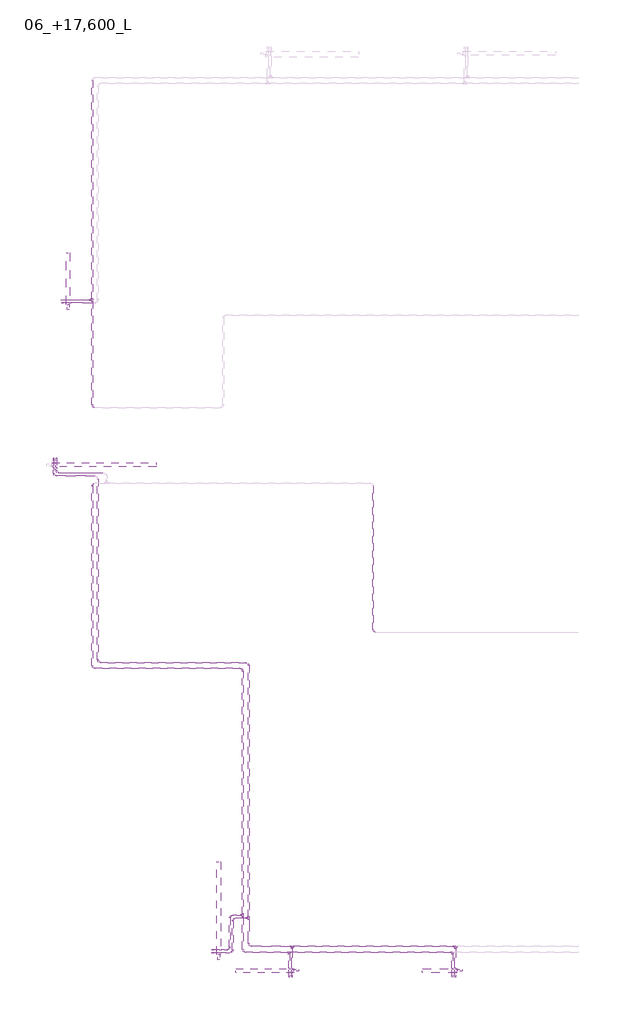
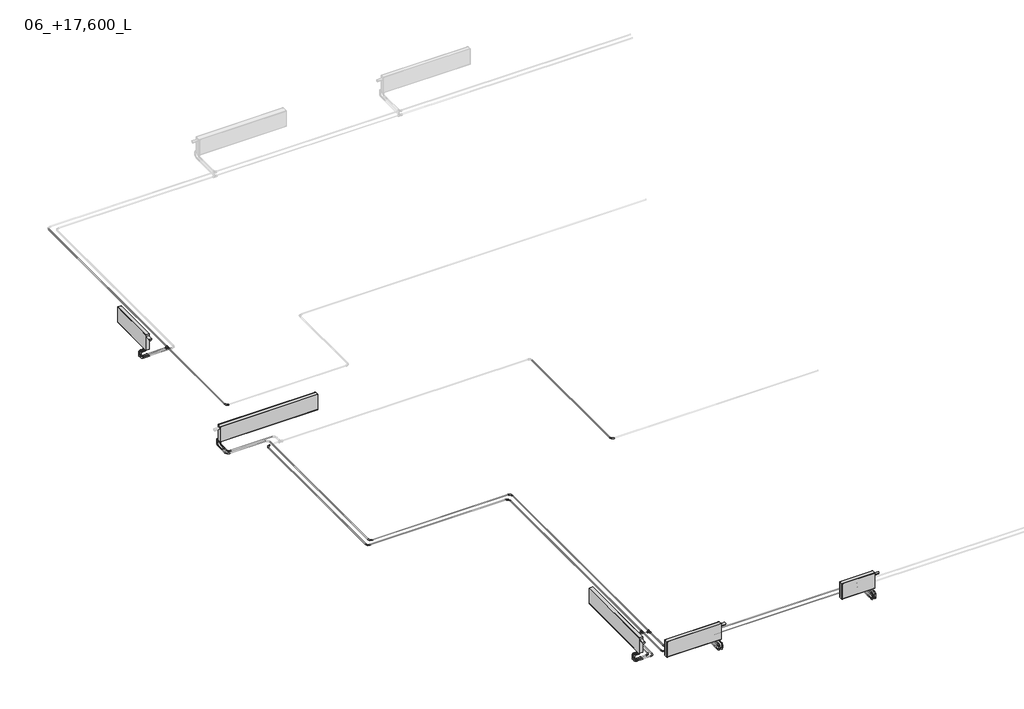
# One storey, part 1 of 7: 32 pipe fittings, 31 pipe segments, 5 proxies, 4 valves.
"""IFC4 building model written with IfcOpenShell, lengths in millimetres."""

from ifc_helpers import new_model, si_unit, point, frame, frame_2d, origin, place, context, project, spatial, circle_curve, trimmed, segment, composite_curve, outline, extrude, transform, mapped, element, save
from components import mechanical_equipment_c0c35615, mechanical_equipment_054ffeb9, mechanical_equipment_91f7fb6e, mechanical_equipment_feb41a6e, mechanical_equipment_6df30eec, pipe_fitting_44bd76dc, pipe_fitting_8f811e63, pipe_fitting_d927fdfb, valve_73842d38, valve_8453c3c0, valve_3b1922a4, valve_18af1cec

model = new_model("IFC4")

# Units and contexts
model_context = context("Model", 3, world=origin())
ifc_project = project(units=[si_unit("LENGTHUNIT", "METRE", prefix="MILLI")], contexts=[model_context])

# Site, building, storey
site = spatial("IfcSite", under=ifc_project)
building = spatial("IfcBuilding", under=site)
storey = spatial("IfcBuildingStorey", under=building, Name="06_+17,600_L", Elevation=17600.0)

# Proxies
placement = place(None, origin())
mechanical_equipment_shape = mechanical_equipment_c0c35615(model_context)
element("IfcBuildingElementProxy", 1, Name="EVRA CV Д : 21-300-1600", ObjectType="EVRA CV Д : 21-300-1600", at=placement, inside=storey, context=model_context, shape_type="MappedRepresentation", body=[
    mapped(mechanical_equipment_shape, transform((50061.4631102, 113460.2677163, 31400.0), x_axis=(0.0, 1.0, 0.0), y_axis=(-1.0, 0.0, 0.0), z_axis=(0.0, 0.0, 1.0))),
])
mechanical_equipment_2_shape = mechanical_equipment_054ffeb9(model_context)
element("IfcBuildingElementProxy", 2, Name="EVRA CV Д : 21-300-1000", ObjectType="EVRA CV Д : 21-300-1000", at=placement, inside=storey, context=model_context, shape_type="MappedRepresentation", body=[
    mapped(mechanical_equipment_2_shape, transform((51080.0, 112561.4631102, 31400.0), x_axis=(-1.0, 0.0, 0.0), y_axis=(0.0, -1.0, 0.0), z_axis=(0.0, 0.0, 1.0))),
])
mechanical_equipment_3_shape = mechanical_equipment_91f7fb6e(model_context)
element("IfcBuildingElementProxy", 3, Name="EVRA CV Д : 21-300-900", ObjectType="EVRA CV Д : 21-300-900", at=placement, inside=storey, context=model_context, shape_type="MappedRepresentation", body=[
    mapped(mechanical_equipment_3_shape, transform((47461.4631102, 124330.0000002, 31400.0), x_axis=(0.0, 1.0, 0.0), y_axis=(-1.0, 0.0, 0.0), z_axis=(0.0, 0.0, 1.0))),
])
mechanical_equipment_4_shape = mechanical_equipment_feb41a6e(model_context)
element("IfcBuildingElementProxy", 4, Name="EVRA CV Д : 21-300-600", ObjectType="EVRA CV Д : 21-300-600", at=placement, inside=storey, context=model_context, shape_type="MappedRepresentation", body=[
    mapped(mechanical_equipment_4_shape, transform((54100.0, 112561.4631102, 31400.0), x_axis=(-1.0, 0.0, 0.0), y_axis=(0.0, -1.0, 0.0), z_axis=(0.0, 0.0, 1.0))),
])
mechanical_equipment_5_shape = mechanical_equipment_6df30eec(model_context)
element("IfcBuildingElementProxy", 5, Name="EVRA CV Д : 21-300-1800", ObjectType="EVRA CV Д : 21-300-1800", at=placement, inside=storey, context=model_context, shape_type="MappedRepresentation", body=[
    mapped(mechanical_equipment_5_shape, transform((47902.548164, 121338.53689, 31400.0), x_axis=(1.0, 0.0, 0.0), y_axis=(0.0, 1.0, 0.0), z_axis=(0.0, 0.0, 1.0))),
])

# Pipe fittings
pipe_fitting_shape = pipe_fitting_44bd76dc(model_context)
element("IfcPipeFitting", 6, ObjectType="ADSK_Пресс-фитинг ПЭ_Тройник : Пластик черный", at=placement, inside=storey, context=model_context, shape_type="MappedRepresentation", body=[
    mapped(pipe_fitting_shape, transform((50499.9999998, 113540.2677163, 31350.0), x_axis=(0.0, -1.0, 0.0), y_axis=(1.0, 0.0, 0.0), z_axis=(0.0, 0.0, 1.0))),
])
element("IfcPipeFitting", 7, ObjectType="ADSK_Пресс-фитинг ПЭ_Тройник : Пластик черный", at=placement, inside=storey, context=model_context, shape_type="MappedRepresentation", body=[
    mapped(pipe_fitting_shape, transform((50599.9999998, 113490.2677163, 31350.0), x_axis=(0.0, -1.0, 0.0), y_axis=(1.0, 0.0, 0.0), z_axis=(0.0, 0.0, 1.0))),
])
element("IfcPipeFitting", 8, ObjectType="ADSK_Пресс-фитинг ПЭ_Тройник : Пластик черный", at=placement, inside=storey, context=model_context, shape_type="MappedRepresentation", body=[
    mapped(pipe_fitting_shape, transform((47900.0, 124160.0000002, 31350.0), x_axis=(0.0, 1.0, 0.0), y_axis=(1.0, 0.0, 0.0), z_axis=(0.0, 0.0, -1.0))),
])
element("IfcPipeFitting", 9, ObjectType="ADSK_Пресс-фитинг ПЭ_Тройник : Пластик черный", at=placement, inside=storey, context=model_context, shape_type="MappedRepresentation", body=[
    mapped(pipe_fitting_shape, transform((54170.0, 113000.0, 31350.0), x_axis=(1.0, 0.0, 0.0), y_axis=(0.0, 1.0, 0.0), z_axis=(0.0, 0.0, 1.0))),
])
element("IfcPipeFitting", 10, ObjectType="ADSK_Пресс-фитинг ПЭ_Тройник : Пластик черный", at=placement, inside=storey, context=model_context, shape_type="MappedRepresentation", body=[
    mapped(pipe_fitting_shape, transform((54120.0, 112900.0, 31350.0), x_axis=(1.0, 0.0, 0.0), y_axis=(0.0, 1.0, 0.0), z_axis=(0.0, 0.0, 1.0))),
])
element("IfcPipeFitting", 11, ObjectType="ADSK_Пресс-фитинг ПЭ_Тройник : Пластик черный", at=placement, inside=storey, context=model_context, shape_type="MappedRepresentation", body=[
    mapped(pipe_fitting_shape, transform((51350.0, 113000.0, 31350.0), x_axis=(1.0, 0.0, 0.0), y_axis=(0.0, 1.0, 0.0), z_axis=(0.0, 0.0, 1.0))),
])
element("IfcPipeFitting", 12, ObjectType="ADSK_Пресс-фитинг ПЭ_Тройник : Пластик черный", at=placement, inside=storey, context=model_context, shape_type="MappedRepresentation", body=[
    mapped(pipe_fitting_shape, transform((51300.0, 112900.0, 31350.0), x_axis=(1.0, 0.0, 0.0), y_axis=(0.0, 1.0, 0.0), z_axis=(0.0, 0.0, 1.0))),
])
pipe_fitting_2_shape = pipe_fitting_8f811e63(model_context)
element("IfcPipeFitting", 13, ObjectType="ADSK_Пресс-фитинг ПЭ_Поворот с фиксатором : Поворот трубы", at=placement, inside=storey, context=model_context, shape_type="MappedRepresentation", body=[
    mapped(pipe_fitting_2_shape, transform((50599.9999998, 113000.0, 31350.0), x_axis=(0.0, -1.0, 0.0), y_axis=(1.0, 0.0, 0.0), z_axis=(0.0, 0.0, 1.0))),
])
element("IfcPipeFitting", 14, ObjectType="ADSK_Пресс-фитинг ПЭ_Поворот с фиксатором : Поворот трубы", at=placement, inside=storey, context=model_context, shape_type="MappedRepresentation", body=[
    mapped(pipe_fitting_2_shape, transform((50499.9999998, 112900.0, 31350.0), x_axis=(0.0, -1.0, 0.0), y_axis=(1.0, 0.0, 0.0), z_axis=(0.0, 0.0, 1.0))),
])
element("IfcPipeFitting", 15, ObjectType="ADSK_Пресс-фитинг ПЭ_Поворот с фиксатором : Поворот трубы", at=placement, inside=storey, context=model_context, shape_type="MappedRepresentation", body=[
    mapped(pipe_fitting_2_shape, transform((50277.0, 113540.2677163, 31350.0), x_axis=(-1.0, 0.0, 0.0), y_axis=(0.0, -1.0, 0.0), z_axis=(0.0, 0.0, 1.0))),
])
element("IfcPipeFitting", 16, ObjectType="ADSK_Пресс-фитинг ПЭ_Поворот с фиксатором : Поворот трубы", at=placement, inside=storey, context=model_context, shape_type="MappedRepresentation", body=[
    mapped(pipe_fitting_2_shape, transform((50327.0, 113490.2677163, 31350.0), x_axis=(-1.0, 0.0, 0.0), y_axis=(0.0, -1.0, 0.0), z_axis=(0.0, 0.0, 1.0))),
])
element("IfcPipeFitting", 17, ObjectType="ADSK_Пресс-фитинг ПЭ_Поворот с фиксатором : Поворот трубы", at=placement, inside=storey, context=model_context, shape_type="MappedRepresentation", body=[
    mapped(pipe_fitting_2_shape, transform((47900.0, 122300.0, 31350.0), x_axis=(0.0, -1.0, 0.0), y_axis=(1.0, 0.0, 0.0), z_axis=(0.0, 0.0, 1.0))),
])
element("IfcPipeFitting", 18, ObjectType="ADSK_Пресс-фитинг ПЭ_Поворот с фиксатором : Поворот трубы", at=placement, inside=storey, context=model_context, shape_type="MappedRepresentation", body=[
    mapped(pipe_fitting_2_shape, transform((52749.0000003, 118420.0, 31350.0), x_axis=(0.0, -1.0, 0.0), y_axis=(1.0, 0.0, 0.0), z_axis=(0.0, 0.0, 1.0))),
])
element("IfcPipeFitting", 19, ObjectType="ADSK_Пресс-фитинг ПЭ_Поворот с фиксатором : Поворот трубы", at=placement, inside=storey, context=model_context, shape_type="MappedRepresentation", body=[
    mapped(pipe_fitting_2_shape, transform((47900.0, 121000.0000002, 31350.0), x_axis=(-1.0, 0.0, 0.0), y_axis=(0.0, -1.0, 0.0), z_axis=(0.0, 0.0, 1.0))),
])
element("IfcPipeFitting", 20, ObjectType="ADSK_Пресс-фитинг ПЭ_Поворот с фиксатором : Поворот трубы", at=placement, inside=storey, context=model_context, shape_type="MappedRepresentation", body=[
    mapped(pipe_fitting_2_shape, transform((47282.548164, 121173.0000002, 31350.0), x_axis=(0.0, -1.0, 0.0), y_axis=(1.0, 0.0, 0.0), z_axis=(0.0, 0.0, 1.0))),
])
element("IfcPipeFitting", 21, ObjectType="ADSK_Пресс-фитинг ПЭ_Поворот с фиксатором : Поворот трубы", at=placement, inside=storey, context=model_context, shape_type="MappedRepresentation", body=[
    mapped(pipe_fitting_2_shape, transform((47232.548164, 121123.0000002, 31350.0), x_axis=(0.0, -1.0, 0.0), y_axis=(1.0, 0.0, 0.0), z_axis=(0.0, 0.0, 1.0))),
])
element("IfcPipeFitting", 22, ObjectType="ADSK_Пресс-фитинг ПЭ_Поворот с фиксатором : Поворот трубы", at=placement, inside=storey, context=model_context, shape_type="MappedRepresentation", body=[
    mapped(pipe_fitting_2_shape, transform((48000.0, 117900.0000002, 31350.0), x_axis=(0.0, -1.0, 0.0), y_axis=(1.0, 0.0, 0.0), z_axis=(0.0, 0.0, 1.0))),
])
element("IfcPipeFitting", 23, ObjectType="ADSK_Пресс-фитинг ПЭ_Поворот с фиксатором : Поворот трубы", at=placement, inside=storey, context=model_context, shape_type="MappedRepresentation", body=[
    mapped(pipe_fitting_2_shape, transform((50499.9999998, 117800.0000002, 31350.0), x_axis=(0.0, 1.0, 0.0), y_axis=(-1.0, 0.0, 0.0), z_axis=(0.0, 0.0, 1.0))),
])
element("IfcPipeFitting", 24, ObjectType="ADSK_Пресс-фитинг ПЭ_Поворот с фиксатором : Поворот трубы", at=placement, inside=storey, context=model_context, shape_type="MappedRepresentation", body=[
    mapped(pipe_fitting_2_shape, transform((50277.0, 112940.2677163, 31350.0), x_axis=(1.0, 0.0, 0.0), y_axis=(0.0, 1.0, 0.0), z_axis=(0.0, 0.0, 1.0))),
])
element("IfcPipeFitting", 25, ObjectType="ADSK_Пресс-фитинг ПЭ_Поворот с фиксатором : Поворот трубы", at=placement, inside=storey, context=model_context, shape_type="MappedRepresentation", body=[
    mapped(pipe_fitting_2_shape, transform((50327.0, 112890.2677163, 31350.0), x_axis=(1.0, 0.0, 0.0), y_axis=(0.0, 1.0, 0.0), z_axis=(0.0, 0.0, 1.0))),
])
element("IfcPipeFitting", 26, ObjectType="ADSK_Пресс-фитинг ПЭ_Поворот с фиксатором : Поворот трубы", at=placement, inside=storey, context=model_context, shape_type="MappedRepresentation", body=[
    mapped(pipe_fitting_2_shape, transform((50599.9999998, 117900.0000002, 31350.0), x_axis=(0.0, 1.0, 0.0), y_axis=(-1.0, 0.0, 0.0), z_axis=(0.0, 0.0, 1.0))),
])
element("IfcPipeFitting", 27, ObjectType="ADSK_Пресс-фитинг ПЭ_Поворот с фиксатором : Поворот трубы", at=placement, inside=storey, context=model_context, shape_type="MappedRepresentation", body=[
    mapped(pipe_fitting_2_shape, transform((47900.0, 117800.0000002, 31350.0), x_axis=(0.0, -1.0, 0.0), y_axis=(1.0, 0.0, 0.0), z_axis=(0.0, 0.0, 1.0))),
])
pipe_fitting_3_shape = pipe_fitting_d927fdfb(model_context)
element("IfcPipeFitting", 28, ObjectType="Трубка Г-образная VTm.481.PC из стены : VTm.481.PC", at=placement, inside=storey, context=model_context, shape_type="MappedRepresentation", body=[
    mapped(pipe_fitting_3_shape, transform((51350.0, 112512.0, 31350.0), x_axis=(-1.0, 0.0, 0.0), y_axis=(0.0, -1.0, 0.0), z_axis=(0.0, 0.0, 1.0))),
])
element("IfcPipeFitting", 29, ObjectType="Трубка Г-образная VTm.481.PC из стены : VTm.481.PC", at=placement, inside=storey, context=model_context, shape_type="MappedRepresentation", body=[
    mapped(pipe_fitting_3_shape, transform((50012.0, 112890.2677163, 31350.0), x_axis=(0.0, 1.0, 0.0), y_axis=(-1.0, 0.0, 0.0), z_axis=(0.0, 0.0, 1.0))),
])
element("IfcPipeFitting", 30, ObjectType="Трубка Г-образная VTm.481.PC из стены : VTm.481.PC", at=placement, inside=storey, context=model_context, shape_type="MappedRepresentation", body=[
    mapped(pipe_fitting_3_shape, transform((54170.0, 112512.0, 31350.0), x_axis=(-1.0, 0.0, 0.0), y_axis=(0.0, -1.0, 0.0), z_axis=(0.0, 0.0, 1.0))),
])
element("IfcPipeFitting", 31, ObjectType="Трубка Г-образная VTm.481.PC из стены : VTm.481.PC", at=placement, inside=storey, context=model_context, shape_type="MappedRepresentation", body=[
    mapped(pipe_fitting_3_shape, transform((47232.548164, 121388.0000002, 31350.0), x_axis=(1.0, 0.0, 0.0), y_axis=(0.0, 1.0, 0.0), z_axis=(0.0, 0.0, 1.0))),
])
element("IfcPipeFitting", 32, ObjectType="Трубка Г-образная VTm.481.PC из стены : VTm.481.PC", at=placement, inside=storey, context=model_context, shape_type="MappedRepresentation", body=[
    mapped(pipe_fitting_3_shape, transform((47412.0, 124110.0000002, 31350.0), x_axis=(0.0, 1.0, 0.0), y_axis=(-1.0, 0.0, 0.0), z_axis=(0.0, 0.0, 1.0))),
])
element("IfcPipeFitting", 33, ObjectType="Трубка Г-образная VTm.481.PC из стены : VTm.481.PC", at=placement, inside=storey, context=model_context, shape_type="MappedRepresentation", body=[
    mapped(pipe_fitting_3_shape, transform((51300.0, 112512.0, 31350.0), x_axis=(-1.0, 0.0, 0.0), y_axis=(0.0, -1.0, 0.0), z_axis=(0.0, 0.0, 1.0))),
])
element("IfcPipeFitting", 34, ObjectType="Трубка Г-образная VTm.481.PC из стены : VTm.481.PC", at=placement, inside=storey, context=model_context, shape_type="MappedRepresentation", body=[
    mapped(pipe_fitting_3_shape, transform((50012.0, 112940.2677163, 31350.0), x_axis=(0.0, 1.0, 0.0), y_axis=(-1.0, 0.0, 0.0), z_axis=(0.0, 0.0, 1.0))),
])
element("IfcPipeFitting", 35, ObjectType="Трубка Г-образная VTm.481.PC из стены : VTm.481.PC", at=placement, inside=storey, context=model_context, shape_type="MappedRepresentation", body=[
    mapped(pipe_fitting_3_shape, transform((54120.0, 112512.0, 31350.0), x_axis=(-1.0, 0.0, 0.0), y_axis=(0.0, -1.0, 0.0), z_axis=(0.0, 0.0, 1.0))),
])
element("IfcPipeFitting", 36, ObjectType="Трубка Г-образная VTm.481.PC из стены : VTm.481.PC", at=placement, inside=storey, context=model_context, shape_type="MappedRepresentation", body=[
    mapped(pipe_fitting_3_shape, transform((47282.548164, 121388.0000002, 31350.0), x_axis=(1.0, 0.0, 0.0), y_axis=(0.0, 1.0, 0.0), z_axis=(0.0, 0.0, 1.0))),
])
element("IfcPipeFitting", 37, ObjectType="Трубка Г-образная VTm.481.PC из стены : VTm.481.PC", at=placement, inside=storey, context=model_context, shape_type="MappedRepresentation", body=[
    mapped(pipe_fitting_3_shape, transform((47412.0, 124160.0000002, 31350.0), x_axis=(0.0, 1.0, 0.0), y_axis=(-1.0, 0.0, 0.0), z_axis=(0.0, 0.0, 1.0))),
])

# Pipe segments
element("IfcPipeSegment", 38, ObjectType="ADSK_Полиэтилен сшитый", at=placement, inside=storey, context=model_context, shape_type="SweptSolid", body=[
    extrude(outline(composite_curve([segment(trimmed(circle_curve(frame_2d((31350.0, 50499.9999998)), 8.0), [point((31350.0, 50491.9999998))], [point((31342.0, 50499.9999998))], False, "CARTESIAN"), True, "CONTINUOUS"), segment(trimmed(circle_curve(frame_2d((31350.0, 50499.9999998)), 8.0), [point((31342.0, 50499.9999998))], [point((31350.0, 50507.9999998))], False, "CARTESIAN"), True, "CONTINUOUS"), segment(trimmed(circle_curve(frame_2d((31350.0, 50499.9999998)), 8.0), [point((31350.0, 50507.9999998))], [point((31358.0, 50499.9999998))], False, "CARTESIAN"), True, "CONTINUOUS"), segment(trimmed(circle_curve(frame_2d((31350.0, 50499.9999998)), 8.0), [point((31358.0, 50499.9999998))], [point((31350.0, 50491.9999998))], False, "CARTESIAN"), True, "CONTINUOUS")], self_intersect=False)), frame((0.0, 112948.0, 0.0), z_axis=(0.0, 1.0, 0.0), x_axis=(0.0, 0.0, 1.0)), (0.0, 0.0, 1.0), 573.2677163),
])
element("IfcPipeSegment", 39, ObjectType="ADSK_Полиэтилен сшитый", at=placement, inside=storey, context=model_context, shape_type="SweptSolid", body=[
    extrude(outline(composite_curve([segment(trimmed(circle_curve(frame_2d((31350.0, 47900.0)), 8.0), [point((31350.0, 47892.0))], [point((31342.0, 47900.0))], False, "CARTESIAN"), True, "CONTINUOUS"), segment(trimmed(circle_curve(frame_2d((31350.0, 47900.0)), 8.0), [point((31342.0, 47900.0))], [point((31350.0, 47908.0))], False, "CARTESIAN"), True, "CONTINUOUS"), segment(trimmed(circle_curve(frame_2d((31350.0, 47900.0)), 8.0), [point((31350.0, 47908.0))], [point((31358.0, 47900.0))], False, "CARTESIAN"), True, "CONTINUOUS"), segment(trimmed(circle_curve(frame_2d((31350.0, 47900.0)), 8.0), [point((31358.0, 47900.0))], [point((31350.0, 47892.0))], False, "CARTESIAN"), True, "CONTINUOUS")], self_intersect=False)), frame((0.0, 122348.0, 0.0), z_axis=(0.0, 1.0, 0.0), x_axis=(0.0, 0.0, 1.0)), (0.0, 0.0, 1.0), 1792.0000002),
])
element("IfcPipeSegment", 40, ObjectType="ADSK_Полиэтилен сшитый", at=placement, inside=storey, context=model_context, shape_type="SweptSolid", body=[
    extrude(outline(composite_curve([segment(trimmed(circle_curve(frame_2d((31350.0, 51350.0)), 8.0), [point((31350.0, 51342.0))], [point((31342.0, 51350.0))], False, "CARTESIAN"), True, "CONTINUOUS"), segment(trimmed(circle_curve(frame_2d((31350.0, 51350.0)), 8.0), [point((31342.0, 51350.0))], [point((31350.0, 51358.0))], False, "CARTESIAN"), True, "CONTINUOUS"), segment(trimmed(circle_curve(frame_2d((31350.0, 51350.0)), 8.0), [point((31350.0, 51358.0))], [point((31358.0, 51350.0))], False, "CARTESIAN"), True, "CONTINUOUS"), segment(trimmed(circle_curve(frame_2d((31350.0, 51350.0)), 8.0), [point((31358.0, 51350.0))], [point((31350.0, 51342.0))], False, "CARTESIAN"), True, "CONTINUOUS")], self_intersect=False)), frame((0.0, 112627.0, 0.0), z_axis=(0.0, 1.0, 0.0), x_axis=(0.0, 0.0, 1.0)), (0.0, 0.0, 1.0), 349.0),
])
element("IfcPipeSegment", 41, ObjectType="ADSK_Полиэтилен сшитый", at=placement, inside=storey, context=model_context, shape_type="SweptSolid", body=[
    extrude(outline(composite_curve([segment(trimmed(circle_curve(frame_2d((113000.0, 31350.0)), 8.0), [point((113008.0, 31350.0))], [point((113000.0, 31342.0))], False, "CARTESIAN"), True, "CONTINUOUS"), segment(trimmed(circle_curve(frame_2d((113000.0, 31350.0)), 8.0), [point((113000.0, 31342.0))], [point((112992.0, 31350.0))], False, "CARTESIAN"), True, "CONTINUOUS"), segment(trimmed(circle_curve(frame_2d((113000.0, 31350.0)), 8.0), [point((112992.0, 31350.0))], [point((113000.0, 31358.0))], False, "CARTESIAN"), True, "CONTINUOUS"), segment(trimmed(circle_curve(frame_2d((113000.0, 31350.0)), 8.0), [point((113000.0, 31358.0))], [point((113008.0, 31350.0))], False, "CARTESIAN"), True, "CONTINUOUS")], self_intersect=False)), frame((50647.9999998, 0.0, 0.0), z_axis=(1.0, 0.0, 0.0), x_axis=(0.0, 1.0, 0.0)), (0.0, 0.0, 1.0), 682.0000002),
])
element("IfcPipeSegment", 42, ObjectType="ADSK_Полиэтилен сшитый", at=placement, inside=storey, context=model_context, shape_type="SweptSolid", body=[
    extrude(outline(composite_curve([segment(trimmed(circle_curve(frame_2d((31350.0, 51300.0)), 8.0), [point((31350.0, 51292.0))], [point((31342.0, 51300.0))], False, "CARTESIAN"), True, "CONTINUOUS"), segment(trimmed(circle_curve(frame_2d((31350.0, 51300.0)), 8.0), [point((31342.0, 51300.0))], [point((31350.0, 51308.0))], False, "CARTESIAN"), True, "CONTINUOUS"), segment(trimmed(circle_curve(frame_2d((31350.0, 51300.0)), 8.0), [point((31350.0, 51308.0))], [point((31358.0, 51300.0))], False, "CARTESIAN"), True, "CONTINUOUS"), segment(trimmed(circle_curve(frame_2d((31350.0, 51300.0)), 8.0), [point((31358.0, 51300.0))], [point((31350.0, 51292.0))], False, "CARTESIAN"), True, "CONTINUOUS")], self_intersect=False)), frame((0.0, 112627.0, 0.0), z_axis=(0.0, 1.0, 0.0), x_axis=(0.0, 0.0, 1.0)), (0.0, 0.0, 1.0), 249.0),
])
element("IfcPipeSegment", 43, ObjectType="ADSK_Полиэтилен сшитый", at=placement, inside=storey, context=model_context, shape_type="SweptSolid", body=[
    extrude(outline(composite_curve([segment(trimmed(circle_curve(frame_2d((112940.2677163, 31350.0)), 8.0), [point((112948.2677163, 31350.0))], [point((112940.2677163, 31342.0))], False, "CARTESIAN"), True, "CONTINUOUS"), segment(trimmed(circle_curve(frame_2d((112940.2677163, 31350.0)), 8.0), [point((112940.2677163, 31342.0))], [point((112932.2677163, 31350.0))], False, "CARTESIAN"), True, "CONTINUOUS"), segment(trimmed(circle_curve(frame_2d((112940.2677163, 31350.0)), 8.0), [point((112932.2677163, 31350.0))], [point((112940.2677163, 31358.0))], False, "CARTESIAN"), True, "CONTINUOUS"), segment(trimmed(circle_curve(frame_2d((112940.2677163, 31350.0)), 8.0), [point((112940.2677163, 31358.0))], [point((112948.2677163, 31350.0))], False, "CARTESIAN"), True, "CONTINUOUS")], self_intersect=False)), frame((50127.0, 0.0, 0.0), z_axis=(1.0, 0.0, 0.0), x_axis=(0.0, 1.0, 0.0)), (0.0, 0.0, 1.0), 102.0),
])
element("IfcPipeSegment", 44, ObjectType="ADSK_Полиэтилен сшитый", at=placement, inside=storey, context=model_context, shape_type="SweptSolid", body=[
    extrude(outline(composite_curve([segment(trimmed(circle_curve(frame_2d((31350.0, 50277.0)), 8.0), [point((31350.0, 50285.0))], [point((31358.0, 50277.0))], False, "CARTESIAN"), True, "CONTINUOUS"), segment(trimmed(circle_curve(frame_2d((31350.0, 50277.0)), 8.0), [point((31358.0, 50277.0))], [point((31350.0, 50269.0))], False, "CARTESIAN"), True, "CONTINUOUS"), segment(trimmed(circle_curve(frame_2d((31350.0, 50277.0)), 8.0), [point((31350.0, 50269.0))], [point((31342.0, 50277.0))], False, "CARTESIAN"), True, "CONTINUOUS"), segment(trimmed(circle_curve(frame_2d((31350.0, 50277.0)), 8.0), [point((31342.0, 50277.0))], [point((31350.0, 50285.0))], False, "CARTESIAN"), True, "CONTINUOUS")], self_intersect=False)), frame((0.0, 112988.2677163, 0.0), z_axis=(0.0, 1.0, 0.0), x_axis=(0.0, 0.0, 1.0)), (0.0, 0.0, 1.0), 504.0),
])
element("IfcPipeSegment", 45, ObjectType="ADSK_Полиэтилен сшитый", at=placement, inside=storey, context=model_context, shape_type="SweptSolid", body=[
    extrude(outline(composite_curve([segment(trimmed(circle_curve(frame_2d((113540.2677163, 31350.0)), 8.0), [point((113548.2677163, 31350.0))], [point((113540.2677163, 31342.0))], False, "CARTESIAN"), True, "CONTINUOUS"), segment(trimmed(circle_curve(frame_2d((113540.2677163, 31350.0)), 8.0), [point((113540.2677163, 31342.0))], [point((113532.2677163, 31350.0))], False, "CARTESIAN"), True, "CONTINUOUS"), segment(trimmed(circle_curve(frame_2d((113540.2677163, 31350.0)), 8.0), [point((113532.2677163, 31350.0))], [point((113540.2677163, 31358.0))], False, "CARTESIAN"), True, "CONTINUOUS"), segment(trimmed(circle_curve(frame_2d((113540.2677163, 31350.0)), 8.0), [point((113540.2677163, 31358.0))], [point((113548.2677163, 31350.0))], False, "CARTESIAN"), True, "CONTINUOUS")], self_intersect=False)), frame((50325.0, 0.0, 0.0), z_axis=(1.0, 0.0, 0.0), x_axis=(0.0, 1.0, 0.0)), (0.0, 0.0, 1.0), 148.9999998),
])
element("IfcPipeSegment", 46, ObjectType="ADSK_Полиэтилен сшитый", at=placement, inside=storey, context=model_context, shape_type="SweptSolid", body=[
    extrude(outline(composite_curve([segment(trimmed(circle_curve(frame_2d((112890.2677163, 31350.0)), 8.0), [point((112898.2677163, 31350.0))], [point((112890.2677163, 31342.0))], False, "CARTESIAN"), True, "CONTINUOUS"), segment(trimmed(circle_curve(frame_2d((112890.2677163, 31350.0)), 8.0), [point((112890.2677163, 31342.0))], [point((112882.2677163, 31350.0))], False, "CARTESIAN"), True, "CONTINUOUS"), segment(trimmed(circle_curve(frame_2d((112890.2677163, 31350.0)), 8.0), [point((112882.2677163, 31350.0))], [point((112890.2677163, 31358.0))], False, "CARTESIAN"), True, "CONTINUOUS"), segment(trimmed(circle_curve(frame_2d((112890.2677163, 31350.0)), 8.0), [point((112890.2677163, 31358.0))], [point((112898.2677163, 31350.0))], False, "CARTESIAN"), True, "CONTINUOUS")], self_intersect=False)), frame((50127.0, 0.0, 0.0), z_axis=(1.0, 0.0, 0.0), x_axis=(0.0, 1.0, 0.0)), (0.0, 0.0, 1.0), 152.0),
])
element("IfcPipeSegment", 47, ObjectType="ADSK_Полиэтилен сшитый", at=placement, inside=storey, context=model_context, shape_type="SweptSolid", body=[
    extrude(outline(composite_curve([segment(trimmed(circle_curve(frame_2d((31350.0, 50327.0)), 8.0), [point((31350.0, 50335.0))], [point((31358.0, 50327.0))], False, "CARTESIAN"), True, "CONTINUOUS"), segment(trimmed(circle_curve(frame_2d((31350.0, 50327.0)), 8.0), [point((31358.0, 50327.0))], [point((31350.0, 50319.0))], False, "CARTESIAN"), True, "CONTINUOUS"), segment(trimmed(circle_curve(frame_2d((31350.0, 50327.0)), 8.0), [point((31350.0, 50319.0))], [point((31342.0, 50327.0))], False, "CARTESIAN"), True, "CONTINUOUS"), segment(trimmed(circle_curve(frame_2d((31350.0, 50327.0)), 8.0), [point((31342.0, 50327.0))], [point((31350.0, 50335.0))], False, "CARTESIAN"), True, "CONTINUOUS")], self_intersect=False)), frame((0.0, 112938.2677163, 0.0), z_axis=(0.0, 1.0, 0.0), x_axis=(0.0, 0.0, 1.0)), (0.0, 0.0, 1.0), 504.0),
])
element("IfcPipeSegment", 48, ObjectType="ADSK_Полиэтилен сшитый", at=placement, inside=storey, context=model_context, shape_type="SweptSolid", body=[
    extrude(outline(composite_curve([segment(trimmed(circle_curve(frame_2d((113490.2677163, 31350.0)), 8.0), [point((113498.2677163, 31350.0))], [point((113490.2677163, 31342.0))], False, "CARTESIAN"), True, "CONTINUOUS"), segment(trimmed(circle_curve(frame_2d((113490.2677163, 31350.0)), 8.0), [point((113490.2677163, 31342.0))], [point((113482.2677163, 31350.0))], False, "CARTESIAN"), True, "CONTINUOUS"), segment(trimmed(circle_curve(frame_2d((113490.2677163, 31350.0)), 8.0), [point((113482.2677163, 31350.0))], [point((113490.2677163, 31358.0))], False, "CARTESIAN"), True, "CONTINUOUS"), segment(trimmed(circle_curve(frame_2d((113490.2677163, 31350.0)), 8.0), [point((113490.2677163, 31358.0))], [point((113498.2677163, 31350.0))], False, "CARTESIAN"), True, "CONTINUOUS")], self_intersect=False)), frame((50375.0, 0.0, 0.0), z_axis=(1.0, 0.0, 0.0), x_axis=(0.0, 1.0, 0.0)), (0.0, 0.0, 1.0), 198.9999998),
])
element("IfcPipeSegment", 49, ObjectType="ADSK_Полиэтилен сшитый", at=placement, inside=storey, context=model_context, shape_type="SweptSolid", body=[
    extrude(outline(composite_curve([segment(trimmed(circle_curve(frame_2d((31350.0, 50599.9999998)), 8.0), [point((31350.0, 50607.9999998))], [point((31358.0, 50599.9999998))], False, "CARTESIAN"), True, "CONTINUOUS"), segment(trimmed(circle_curve(frame_2d((31350.0, 50599.9999998)), 8.0), [point((31358.0, 50599.9999998))], [point((31350.0, 50591.9999998))], False, "CARTESIAN"), True, "CONTINUOUS"), segment(trimmed(circle_curve(frame_2d((31350.0, 50599.9999998)), 8.0), [point((31350.0, 50591.9999998))], [point((31342.0, 50599.9999998))], False, "CARTESIAN"), True, "CONTINUOUS"), segment(trimmed(circle_curve(frame_2d((31350.0, 50599.9999998)), 8.0), [point((31342.0, 50599.9999998))], [point((31350.0, 50607.9999998))], False, "CARTESIAN"), True, "CONTINUOUS")], self_intersect=False)), frame((0.0, 113048.0, 0.0), z_axis=(0.0, 1.0, 0.0), x_axis=(0.0, 0.0, 1.0)), (0.0, 0.0, 1.0), 423.2677163),
])
element("IfcPipeSegment", 50, ObjectType="ADSK_Полиэтилен сшитый", at=placement, inside=storey, context=model_context, shape_type="SweptSolid", body=[
    extrude(outline(composite_curve([segment(trimmed(circle_curve(frame_2d((31350.0, 50499.9999998)), 8.0), [point((31350.0, 50491.9999998))], [point((31342.0, 50499.9999998))], False, "CARTESIAN"), True, "CONTINUOUS"), segment(trimmed(circle_curve(frame_2d((31350.0, 50499.9999998)), 8.0), [point((31342.0, 50499.9999998))], [point((31350.0, 50507.9999998))], False, "CARTESIAN"), True, "CONTINUOUS"), segment(trimmed(circle_curve(frame_2d((31350.0, 50499.9999998)), 8.0), [point((31350.0, 50507.9999998))], [point((31358.0, 50499.9999998))], False, "CARTESIAN"), True, "CONTINUOUS"), segment(trimmed(circle_curve(frame_2d((31350.0, 50499.9999998)), 8.0), [point((31358.0, 50499.9999998))], [point((31350.0, 50491.9999998))], False, "CARTESIAN"), True, "CONTINUOUS")], self_intersect=False)), frame((0.0, 113559.2677163, 0.0), z_axis=(0.0, 1.0, 0.0), x_axis=(0.0, 0.0, 1.0)), (0.0, 0.0, 1.0), 4192.7322839),
])
element("IfcPipeSegment", 51, ObjectType="ADSK_Полиэтилен сшитый", at=placement, inside=storey, context=model_context, shape_type="SweptSolid", body=[
    extrude(outline(composite_curve([segment(trimmed(circle_curve(frame_2d((31350.0, 50599.9999998)), 8.0), [point((31350.0, 50591.9999998))], [point((31342.0, 50599.9999998))], False, "CARTESIAN"), True, "CONTINUOUS"), segment(trimmed(circle_curve(frame_2d((31350.0, 50599.9999998)), 8.0), [point((31342.0, 50599.9999998))], [point((31350.0, 50607.9999998))], False, "CARTESIAN"), True, "CONTINUOUS"), segment(trimmed(circle_curve(frame_2d((31350.0, 50599.9999998)), 8.0), [point((31350.0, 50607.9999998))], [point((31358.0, 50599.9999998))], False, "CARTESIAN"), True, "CONTINUOUS"), segment(trimmed(circle_curve(frame_2d((31350.0, 50599.9999998)), 8.0), [point((31358.0, 50599.9999998))], [point((31350.0, 50591.9999998))], False, "CARTESIAN"), True, "CONTINUOUS")], self_intersect=False)), frame((0.0, 113509.2677163, 0.0), z_axis=(0.0, 1.0, 0.0), x_axis=(0.0, 0.0, 1.0)), (0.0, 0.0, 1.0), 4342.7322839),
])
element("IfcPipeSegment", 52, ObjectType="ADSK_Полиэтилен сшитый", at=placement, inside=storey, context=model_context, shape_type="SweptSolid", body=[
    extrude(outline(composite_curve([segment(trimmed(circle_curve(frame_2d((31350.0, 47900.0)), 8.0), [point((31350.0, 47892.0))], [point((31342.0, 47900.0))], False, "CARTESIAN"), True, "CONTINUOUS"), segment(trimmed(circle_curve(frame_2d((31350.0, 47900.0)), 8.0), [point((31342.0, 47900.0))], [point((31350.0, 47908.0))], False, "CARTESIAN"), True, "CONTINUOUS"), segment(trimmed(circle_curve(frame_2d((31350.0, 47900.0)), 8.0), [point((31350.0, 47908.0))], [point((31358.0, 47900.0))], False, "CARTESIAN"), True, "CONTINUOUS"), segment(trimmed(circle_curve(frame_2d((31350.0, 47900.0)), 8.0), [point((31358.0, 47900.0))], [point((31350.0, 47892.0))], False, "CARTESIAN"), True, "CONTINUOUS")], self_intersect=False)), frame((0.0, 124180.0000002, 0.0), z_axis=(0.0, 1.0, 0.0), x_axis=(0.0, 0.0, 1.0)), (0.0, 0.0, 1.0), 3771.9999998),
])
element("IfcPipeSegment", 53, ObjectType="ADSK_Полиэтилен сшитый", at=placement, inside=storey, context=model_context, shape_type="SweptSolid", body=[
    extrude(outline(composite_curve([segment(trimmed(circle_curve(frame_2d((31350.0, 52749.0000003)), 8.0), [point((31350.0, 52757.0000003))], [point((31358.0, 52749.0000003))], False, "CARTESIAN"), True, "CONTINUOUS"), segment(trimmed(circle_curve(frame_2d((31350.0, 52749.0000003)), 8.0), [point((31358.0, 52749.0000003))], [point((31350.0, 52741.0000003))], False, "CARTESIAN"), True, "CONTINUOUS"), segment(trimmed(circle_curve(frame_2d((31350.0, 52749.0000003)), 8.0), [point((31350.0, 52741.0000003))], [point((31342.0, 52749.0000003))], False, "CARTESIAN"), True, "CONTINUOUS"), segment(trimmed(circle_curve(frame_2d((31350.0, 52749.0000003)), 8.0), [point((31342.0, 52749.0000003))], [point((31350.0, 52757.0000003))], False, "CARTESIAN"), True, "CONTINUOUS")], self_intersect=False)), frame((0.0, 118468.0, 0.0), z_axis=(0.0, 1.0, 0.0), x_axis=(0.0, 0.0, 1.0)), (0.0, 0.0, 1.0), 2484.0000002),
])
element("IfcPipeSegment", 54, ObjectType="ADSK_Полиэтилен сшитый", at=placement, inside=storey, context=model_context, shape_type="SweptSolid", body=[
    extrude(outline(composite_curve([segment(trimmed(circle_curve(frame_2d((31350.0, 48000.0)), 8.0), [point((31350.0, 47992.0))], [point((31342.0, 48000.0))], False, "CARTESIAN"), True, "CONTINUOUS"), segment(trimmed(circle_curve(frame_2d((31350.0, 48000.0)), 8.0), [point((31342.0, 48000.0))], [point((31350.0, 48008.0))], False, "CARTESIAN"), True, "CONTINUOUS"), segment(trimmed(circle_curve(frame_2d((31350.0, 48000.0)), 8.0), [point((31350.0, 48008.0))], [point((31358.0, 48000.0))], False, "CARTESIAN"), True, "CONTINUOUS"), segment(trimmed(circle_curve(frame_2d((31350.0, 48000.0)), 8.0), [point((31358.0, 48000.0))], [point((31350.0, 47992.0))], False, "CARTESIAN"), True, "CONTINUOUS")], self_intersect=False)), frame((0.0, 117948.0000002, 0.0), z_axis=(0.0, 1.0, 0.0), x_axis=(0.0, 0.0, 1.0)), (0.0, 0.0, 1.0), 3127.0),
])
element("IfcPipeSegment", 55, ObjectType="ADSK_Полиэтилен сшитый", at=placement, inside=storey, context=model_context, shape_type="SweptSolid", body=[
    extrude(outline(composite_curve([segment(trimmed(circle_curve(frame_2d((31350.0, 47900.0)), 8.0), [point((31350.0, 47892.0))], [point((31342.0, 47900.0))], False, "CARTESIAN"), True, "CONTINUOUS"), segment(trimmed(circle_curve(frame_2d((31350.0, 47900.0)), 8.0), [point((31342.0, 47900.0))], [point((31350.0, 47908.0))], False, "CARTESIAN"), True, "CONTINUOUS"), segment(trimmed(circle_curve(frame_2d((31350.0, 47900.0)), 8.0), [point((31350.0, 47908.0))], [point((31358.0, 47900.0))], False, "CARTESIAN"), True, "CONTINUOUS"), segment(trimmed(circle_curve(frame_2d((31350.0, 47900.0)), 8.0), [point((31358.0, 47900.0))], [point((31350.0, 47892.0))], False, "CARTESIAN"), True, "CONTINUOUS")], self_intersect=False)), frame((0.0, 117848.0000002, 0.0), z_axis=(0.0, 1.0, 0.0), x_axis=(0.0, 0.0, 1.0)), (0.0, 0.0, 1.0), 3104.0),
])
element("IfcPipeSegment", 56, ObjectType="ADSK_Полиэтилен сшитый", at=placement, inside=storey, context=model_context, shape_type="SweptSolid", body=[
    extrude(outline(composite_curve([segment(trimmed(circle_curve(frame_2d((117900.0000002, 31350.0)), 8.0), [point((117892.0000002, 31350.0))], [point((117900.0000002, 31358.0))], False, "CARTESIAN"), True, "CONTINUOUS"), segment(trimmed(circle_curve(frame_2d((117900.0000002, 31350.0)), 8.0), [point((117900.0000002, 31358.0))], [point((117908.0000002, 31350.0))], False, "CARTESIAN"), True, "CONTINUOUS"), segment(trimmed(circle_curve(frame_2d((117900.0000002, 31350.0)), 8.0), [point((117908.0000002, 31350.0))], [point((117900.0000002, 31342.0))], False, "CARTESIAN"), True, "CONTINUOUS"), segment(trimmed(circle_curve(frame_2d((117900.0000002, 31350.0)), 8.0), [point((117900.0000002, 31342.0))], [point((117892.0000002, 31350.0))], False, "CARTESIAN"), True, "CONTINUOUS")], self_intersect=False)), frame((48048.0, 0.0, 0.0), z_axis=(1.0, 0.0, 0.0), x_axis=(0.0, 1.0, 0.0)), (0.0, 0.0, 1.0), 2503.9999998),
])
element("IfcPipeSegment", 57, ObjectType="ADSK_Полиэтилен сшитый", at=placement, inside=storey, context=model_context, shape_type="SweptSolid", body=[
    extrude(outline(composite_curve([segment(trimmed(circle_curve(frame_2d((31350.0, 47282.548164)), 8.0), [point((31350.0, 47274.548164))], [point((31342.0, 47282.548164))], False, "CARTESIAN"), True, "CONTINUOUS"), segment(trimmed(circle_curve(frame_2d((31350.0, 47282.548164)), 8.0), [point((31342.0, 47282.548164))], [point((31350.0, 47290.548164))], False, "CARTESIAN"), True, "CONTINUOUS"), segment(trimmed(circle_curve(frame_2d((31350.0, 47282.548164)), 8.0), [point((31350.0, 47290.548164))], [point((31358.0, 47282.548164))], False, "CARTESIAN"), True, "CONTINUOUS"), segment(trimmed(circle_curve(frame_2d((31350.0, 47282.548164)), 8.0), [point((31358.0, 47282.548164))], [point((31350.0, 47274.548164))], False, "CARTESIAN"), True, "CONTINUOUS")], self_intersect=False)), frame((0.0, 121221.0000002, 0.0), z_axis=(0.0, 1.0, 0.0), x_axis=(0.0, 0.0, 1.0)), (0.0, 0.0, 1.0), 52.0),
])
element("IfcPipeSegment", 58, ObjectType="ADSK_Полиэтилен сшитый", at=placement, inside=storey, context=model_context, shape_type="SweptSolid", body=[
    extrude(outline(composite_curve([segment(trimmed(circle_curve(frame_2d((121173.0000002, 31350.0)), 8.0), [point((121165.0000002, 31350.0))], [point((121173.0000002, 31358.0))], False, "CARTESIAN"), True, "CONTINUOUS"), segment(trimmed(circle_curve(frame_2d((121173.0000002, 31350.0)), 8.0), [point((121173.0000002, 31358.0))], [point((121181.0000002, 31350.0))], False, "CARTESIAN"), True, "CONTINUOUS"), segment(trimmed(circle_curve(frame_2d((121173.0000002, 31350.0)), 8.0), [point((121181.0000002, 31350.0))], [point((121173.0000002, 31342.0))], False, "CARTESIAN"), True, "CONTINUOUS"), segment(trimmed(circle_curve(frame_2d((121173.0000002, 31350.0)), 8.0), [point((121173.0000002, 31342.0))], [point((121165.0000002, 31350.0))], False, "CARTESIAN"), True, "CONTINUOUS")], self_intersect=False)), frame((47330.548164, 0.0, 0.0), z_axis=(1.0, 0.0, 0.0), x_axis=(0.0, 1.0, 0.0)), (0.0, 0.0, 1.0), 771.451836),
])
element("IfcPipeSegment", 59, ObjectType="ADSK_Полиэтилен сшитый", at=placement, inside=storey, context=model_context, shape_type="SweptSolid", body=[
    extrude(outline(composite_curve([segment(trimmed(circle_curve(frame_2d((31350.0, 47232.548164)), 8.0), [point((31350.0, 47224.548164))], [point((31342.0, 47232.548164))], False, "CARTESIAN"), True, "CONTINUOUS"), segment(trimmed(circle_curve(frame_2d((31350.0, 47232.548164)), 8.0), [point((31342.0, 47232.548164))], [point((31350.0, 47240.548164))], False, "CARTESIAN"), True, "CONTINUOUS"), segment(trimmed(circle_curve(frame_2d((31350.0, 47232.548164)), 8.0), [point((31350.0, 47240.548164))], [point((31358.0, 47232.548164))], False, "CARTESIAN"), True, "CONTINUOUS"), segment(trimmed(circle_curve(frame_2d((31350.0, 47232.548164)), 8.0), [point((31358.0, 47232.548164))], [point((31350.0, 47224.548164))], False, "CARTESIAN"), True, "CONTINUOUS")], self_intersect=False)), frame((0.0, 121171.0000002, 0.0), z_axis=(0.0, 1.0, 0.0), x_axis=(0.0, 0.0, 1.0)), (0.0, 0.0, 1.0), 102.0),
])
element("IfcPipeSegment", 60, ObjectType="ADSK_Полиэтилен сшитый", at=placement, inside=storey, context=model_context, shape_type="SweptSolid", body=[
    extrude(outline(composite_curve([segment(trimmed(circle_curve(frame_2d((121123.0000002, 31350.0)), 8.0), [point((121115.0000002, 31350.0))], [point((121123.0000002, 31358.0))], False, "CARTESIAN"), True, "CONTINUOUS"), segment(trimmed(circle_curve(frame_2d((121123.0000002, 31350.0)), 8.0), [point((121123.0000002, 31358.0))], [point((121131.0000002, 31350.0))], False, "CARTESIAN"), True, "CONTINUOUS"), segment(trimmed(circle_curve(frame_2d((121123.0000002, 31350.0)), 8.0), [point((121131.0000002, 31350.0))], [point((121123.0000002, 31342.0))], False, "CARTESIAN"), True, "CONTINUOUS"), segment(trimmed(circle_curve(frame_2d((121123.0000002, 31350.0)), 8.0), [point((121123.0000002, 31342.0))], [point((121115.0000002, 31350.0))], False, "CARTESIAN"), True, "CONTINUOUS")], self_intersect=False)), frame((47280.548164, 0.0, 0.0), z_axis=(1.0, 0.0, 0.0), x_axis=(0.0, 1.0, 0.0)), (0.0, 0.0, 1.0), 671.451836),
])
element("IfcPipeSegment", 61, ObjectType="ADSK_Полиэтилен сшитый", at=placement, inside=storey, context=model_context, shape_type="SweptSolid", body=[
    extrude(outline(composite_curve([segment(trimmed(circle_curve(frame_2d((117800.0000002, 31350.0)), 8.0), [point((117808.0000002, 31350.0))], [point((117800.0000002, 31342.0))], False, "CARTESIAN"), True, "CONTINUOUS"), segment(trimmed(circle_curve(frame_2d((117800.0000002, 31350.0)), 8.0), [point((117800.0000002, 31342.0))], [point((117792.0000002, 31350.0))], False, "CARTESIAN"), True, "CONTINUOUS"), segment(trimmed(circle_curve(frame_2d((117800.0000002, 31350.0)), 8.0), [point((117792.0000002, 31350.0))], [point((117800.0000002, 31358.0))], False, "CARTESIAN"), True, "CONTINUOUS"), segment(trimmed(circle_curve(frame_2d((117800.0000002, 31350.0)), 8.0), [point((117800.0000002, 31358.0))], [point((117808.0000002, 31350.0))], False, "CARTESIAN"), True, "CONTINUOUS")], self_intersect=False)), frame((47948.0, 0.0, 0.0), z_axis=(1.0, 0.0, 0.0), x_axis=(0.0, 1.0, 0.0)), (0.0, 0.0, 1.0), 2503.9999998),
])
element("IfcPipeSegment", 62, ObjectType="ADSK_Полиэтилен сшитый", at=placement, inside=storey, context=model_context, shape_type="SweptSolid", body=[
    extrude(outline(composite_curve([segment(trimmed(circle_curve(frame_2d((124160.0000002, 31350.0)), 8.0), [point((124168.0000002, 31350.0))], [point((124160.0000002, 31342.0))], False, "CARTESIAN"), True, "CONTINUOUS"), segment(trimmed(circle_curve(frame_2d((124160.0000002, 31350.0)), 8.0), [point((124160.0000002, 31342.0))], [point((124152.0000002, 31350.0))], False, "CARTESIAN"), True, "CONTINUOUS"), segment(trimmed(circle_curve(frame_2d((124160.0000002, 31350.0)), 8.0), [point((124152.0000002, 31350.0))], [point((124160.0000002, 31358.0))], False, "CARTESIAN"), True, "CONTINUOUS"), segment(trimmed(circle_curve(frame_2d((124160.0000002, 31350.0)), 8.0), [point((124160.0000002, 31358.0))], [point((124168.0000002, 31350.0))], False, "CARTESIAN"), True, "CONTINUOUS")], self_intersect=False)), frame((47527.0, 0.0, 0.0), z_axis=(1.0, 0.0, 0.0), x_axis=(0.0, 1.0, 0.0)), (0.0, 0.0, 1.0), 349.0),
])
element("IfcPipeSegment", 63, ObjectType="ADSK_Полиэтилен сшитый", at=placement, inside=storey, context=model_context, shape_type="SweptSolid", body=[
    extrude(outline(composite_curve([segment(trimmed(circle_curve(frame_2d((124110.0000002, 31350.0)), 8.0), [point((124118.0000002, 31350.0))], [point((124110.0000002, 31342.0))], False, "CARTESIAN"), True, "CONTINUOUS"), segment(trimmed(circle_curve(frame_2d((124110.0000002, 31350.0)), 8.0), [point((124110.0000002, 31342.0))], [point((124102.0000002, 31350.0))], False, "CARTESIAN"), True, "CONTINUOUS"), segment(trimmed(circle_curve(frame_2d((124110.0000002, 31350.0)), 8.0), [point((124102.0000002, 31350.0))], [point((124110.0000002, 31358.0))], False, "CARTESIAN"), True, "CONTINUOUS"), segment(trimmed(circle_curve(frame_2d((124110.0000002, 31350.0)), 8.0), [point((124110.0000002, 31358.0))], [point((124118.0000002, 31350.0))], False, "CARTESIAN"), True, "CONTINUOUS")], self_intersect=False)), frame((47527.0, 0.0, 0.0), z_axis=(1.0, 0.0, 0.0), x_axis=(0.0, 1.0, 0.0)), (0.0, 0.0, 1.0), 425.0),
])
element("IfcPipeSegment", 64, ObjectType="ADSK_Полиэтилен сшитый", at=placement, inside=storey, context=model_context, shape_type="SweptSolid", body=[
    extrude(outline(composite_curve([segment(trimmed(circle_curve(frame_2d((31350.0, 54170.0)), 8.0), [point((31350.0, 54162.0))], [point((31342.0, 54170.0))], False, "CARTESIAN"), True, "CONTINUOUS"), segment(trimmed(circle_curve(frame_2d((31350.0, 54170.0)), 8.0), [point((31342.0, 54170.0))], [point((31350.0, 54178.0))], False, "CARTESIAN"), True, "CONTINUOUS"), segment(trimmed(circle_curve(frame_2d((31350.0, 54170.0)), 8.0), [point((31350.0, 54178.0))], [point((31358.0, 54170.0))], False, "CARTESIAN"), True, "CONTINUOUS"), segment(trimmed(circle_curve(frame_2d((31350.0, 54170.0)), 8.0), [point((31358.0, 54170.0))], [point((31350.0, 54162.0))], False, "CARTESIAN"), True, "CONTINUOUS")], self_intersect=False)), frame((0.0, 112627.0, 0.0), z_axis=(0.0, 1.0, 0.0), x_axis=(0.0, 0.0, 1.0)), (0.0, 0.0, 1.0), 347.0),
])
element("IfcPipeSegment", 65, ObjectType="ADSK_Полиэтилен сшитый", at=placement, inside=storey, context=model_context, shape_type="SweptSolid", body=[
    extrude(outline(composite_curve([segment(trimmed(circle_curve(frame_2d((31350.0, 54120.0)), 8.0), [point((31350.0, 54112.0))], [point((31342.0, 54120.0))], False, "CARTESIAN"), True, "CONTINUOUS"), segment(trimmed(circle_curve(frame_2d((31350.0, 54120.0)), 8.0), [point((31342.0, 54120.0))], [point((31350.0, 54128.0))], False, "CARTESIAN"), True, "CONTINUOUS"), segment(trimmed(circle_curve(frame_2d((31350.0, 54120.0)), 8.0), [point((31350.0, 54128.0))], [point((31358.0, 54120.0))], False, "CARTESIAN"), True, "CONTINUOUS"), segment(trimmed(circle_curve(frame_2d((31350.0, 54120.0)), 8.0), [point((31358.0, 54120.0))], [point((31350.0, 54112.0))], False, "CARTESIAN"), True, "CONTINUOUS")], self_intersect=False)), frame((0.0, 112627.0, 0.0), z_axis=(0.0, 1.0, 0.0), x_axis=(0.0, 0.0, 1.0)), (0.0, 0.0, 1.0), 249.0),
])
element("IfcPipeSegment", 66, ObjectType="ADSK_Полиэтилен сшитый", at=placement, inside=storey, context=model_context, shape_type="SweptSolid", body=[
    extrude(outline(composite_curve([segment(trimmed(circle_curve(frame_2d((112900.0, 31350.0)), 8.0), [point((112892.0, 31350.0))], [point((112900.0, 31358.0))], False, "CARTESIAN"), True, "CONTINUOUS"), segment(trimmed(circle_curve(frame_2d((112900.0, 31350.0)), 8.0), [point((112900.0, 31358.0))], [point((112908.0, 31350.0))], False, "CARTESIAN"), True, "CONTINUOUS"), segment(trimmed(circle_curve(frame_2d((112900.0, 31350.0)), 8.0), [point((112908.0, 31350.0))], [point((112900.0, 31342.0))], False, "CARTESIAN"), True, "CONTINUOUS"), segment(trimmed(circle_curve(frame_2d((112900.0, 31350.0)), 8.0), [point((112900.0, 31342.0))], [point((112892.0, 31350.0))], False, "CARTESIAN"), True, "CONTINUOUS")], self_intersect=False)), frame((51320.0, 0.0, 0.0), z_axis=(1.0, 0.0, 0.0), x_axis=(0.0, 1.0, 0.0)), (0.0, 0.0, 1.0), 2780.0),
])
element("IfcPipeSegment", 67, ObjectType="ADSK_Полиэтилен сшитый", at=placement, inside=storey, context=model_context, shape_type="SweptSolid", body=[
    extrude(outline(composite_curve([segment(trimmed(circle_curve(frame_2d((113000.0, 31350.0)), 8.0), [point((113008.0, 31350.0))], [point((113000.0, 31342.0))], False, "CARTESIAN"), True, "CONTINUOUS"), segment(trimmed(circle_curve(frame_2d((113000.0, 31350.0)), 8.0), [point((113000.0, 31342.0))], [point((112992.0, 31350.0))], False, "CARTESIAN"), True, "CONTINUOUS"), segment(trimmed(circle_curve(frame_2d((113000.0, 31350.0)), 8.0), [point((112992.0, 31350.0))], [point((113000.0, 31358.0))], False, "CARTESIAN"), True, "CONTINUOUS"), segment(trimmed(circle_curve(frame_2d((113000.0, 31350.0)), 8.0), [point((113000.0, 31358.0))], [point((113008.0, 31350.0))], False, "CARTESIAN"), True, "CONTINUOUS")], self_intersect=False)), frame((51370.0, 0.0, 0.0), z_axis=(1.0, 0.0, 0.0), x_axis=(0.0, 1.0, 0.0)), (0.0, 0.0, 1.0), 2781.0),
])
element("IfcPipeSegment", 68, ObjectType="ADSK_Полиэтилен сшитый", at=placement, inside=storey, context=model_context, shape_type="SweptSolid", body=[
    extrude(outline(composite_curve([segment(trimmed(circle_curve(frame_2d((112900.0, 31350.0)), 8.0), [point((112892.0, 31350.0))], [point((112900.0, 31358.0))], False, "CARTESIAN"), True, "CONTINUOUS"), segment(trimmed(circle_curve(frame_2d((112900.0, 31350.0)), 8.0), [point((112900.0, 31358.0))], [point((112908.0, 31350.0))], False, "CARTESIAN"), True, "CONTINUOUS"), segment(trimmed(circle_curve(frame_2d((112900.0, 31350.0)), 8.0), [point((112908.0, 31350.0))], [point((112900.0, 31342.0))], False, "CARTESIAN"), True, "CONTINUOUS"), segment(trimmed(circle_curve(frame_2d((112900.0, 31350.0)), 8.0), [point((112900.0, 31342.0))], [point((112892.0, 31350.0))], False, "CARTESIAN"), True, "CONTINUOUS")], self_intersect=False)), frame((50547.9999998, 0.0, 0.0), z_axis=(1.0, 0.0, 0.0), x_axis=(0.0, 1.0, 0.0)), (0.0, 0.0, 1.0), 732.0000002),
])

# Valves
valve_shape = valve_73842d38(model_context)
element("IfcValve", 69, ObjectType="EVRA_Термоголовка EVRA MТB140 : EVRA MТB140", at=placement, inside=storey, context=model_context, shape_type="MappedRepresentation", body=[
    mapped(valve_shape, transform((50880.0, 112587.0, 31750.0), x_axis=(-1.0, 0.0, 0.0), y_axis=(0.0, -1.0, 0.0), z_axis=(0.0, 0.0, 1.0))),
])
valve_2_shape = valve_8453c3c0(model_context)
element("IfcValve", 70, ObjectType="EVRA_Термоголовка EVRA MТB140 : EVRA MТB140", at=placement, inside=storey, context=model_context, shape_type="MappedRepresentation", body=[
    mapped(valve_2_shape, transform((50087.0, 113660.2677163, 31750.0), x_axis=(0.0, 1.0, 0.0), y_axis=(-1.0, 0.0, 0.0), z_axis=(0.0, 0.0, 1.0))),
])
valve_3_shape = valve_3b1922a4(model_context)
element("IfcValve", 71, ObjectType="EVRA_Термоголовка EVRA MТB140 : EVRA MТB140", at=placement, inside=storey, context=model_context, shape_type="MappedRepresentation", body=[
    mapped(valve_3_shape, transform((53900.0, 112587.0, 31750.0), x_axis=(-1.0, 0.0, 0.0), y_axis=(0.0, -1.0, 0.0), z_axis=(0.0, 0.0, 1.0))),
])
valve_4_shape = valve_18af1cec(model_context)
element("IfcValve", 72, ObjectType="EVRA_Термоголовка EVRA MТB140 : EVRA MТB140", at=placement, inside=storey, context=model_context, shape_type="MappedRepresentation", body=[
    mapped(valve_4_shape, transform((47487.0, 124530.0000002, 31750.0), x_axis=(0.0, 1.0, 0.0), y_axis=(-1.0, 0.0, 0.0), z_axis=(0.0, 0.0, 1.0))),
])

save(model, "model.ifc")
